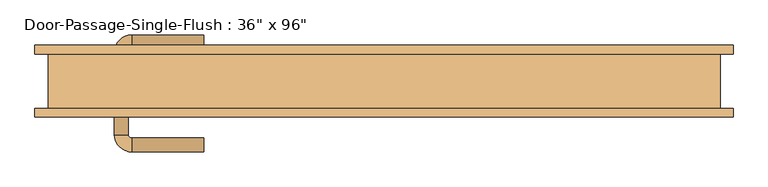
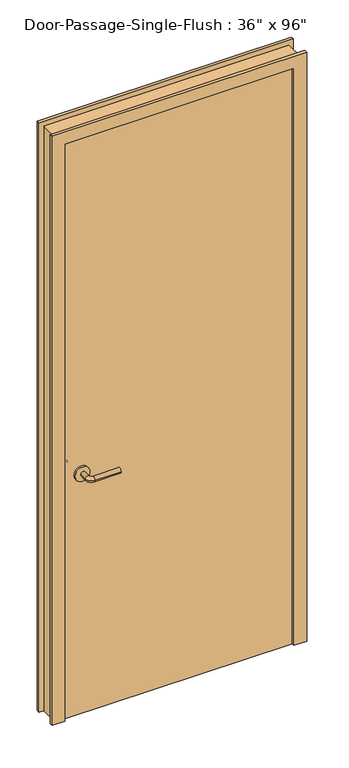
"""IFC4 building model written with IfcOpenShell, lengths in millimetres: door geometry."""

from ifc_helpers import new_model, si_unit, point, frame, frame_2d, origin, origin_with_axes, place, context, project, spatial, polyline, circle_curve, ellipse_curve, trimmed, segment, composite_curve, outline, extrude, faceted_brep, source, transform, mapped, element, save
from ifc_brep_helpers import plane_surface, cylinder_surface, revolved_surface, advanced_brep


def door_f8b587be(model_context):
    return source(origin(), model_context, "Body", "SolidModel", [
        advanced_brep(
        [(-392.190625, 6.4125, 1016.0), (-372.190625, 6.4125, 1016.0), (-392.190625, 36.4125, 1016.0), (-372.190625, 36.4125, 1016.0), (-367.190625, 41.4125, 1016.0), (-367.190625, 61.4125, 1016.0), (-262.190625, 61.4125, 1016.0), (-262.190625, 41.4125, 1016.0)],
        [
            (0, 1, circle_curve(frame((-382.190625, 6.4125, 1016.0), z_axis=(0.0, -1.0, 0.0), x_axis=(1.0, 0.0, 0.0)), 10.0)),
            (1, 0, circle_curve(frame((-382.190625, 6.4125, 1016.0), z_axis=(0.0, -1.0, 0.0), x_axis=(1.0, 0.0, 0.0)), 10.0)),
            (0, 2),
            (2, 3, circle_curve(frame((-382.190625, 36.4125, 1016.0), z_axis=(0.0, -1.0, 0.0), x_axis=(1.0, 0.0, 0.0)), 10.0)),
            (3, 1),
            (3, 2, circle_curve(frame((-382.190625, 36.4125, 1016.0), z_axis=(0.0, -1.0, 0.0), x_axis=(1.0, 0.0, 0.0)), 10.0)),
            (4, 3, circle_curve(frame((-367.190625, 36.4125, 1016.0), z_axis=(0.0, 0.0, 1.0), x_axis=(-1.0, 0.0, 0.0)), 5.0)),
            (2, 5, circle_curve(frame((-367.190625, 36.4125, 1016.0), z_axis=(0.0, 0.0, -1.0), x_axis=(-1.0, 0.0, 0.0)), 25.0)),
            (5, 4, circle_curve(frame((-367.190625, 51.4125, 1016.0), z_axis=(-1.0, 0.0, 0.0), x_axis=(0.0, -1.0, 0.0)), 10.0)),
            (4, 5, circle_curve(frame((-367.190625, 51.4125, 1016.0), z_axis=(-1.0, 0.0, 0.0), x_axis=(0.0, -1.0, 0.0)), 10.0)),
            (6, 7, circle_curve(frame((-262.190625, 51.4125, 1016.0), z_axis=(1.0, 0.0, 0.0), x_axis=(0.0, -1.0, 0.0)), 10.0)),
            (7, 6, circle_curve(frame((-262.190625, 51.4125, 1016.0), z_axis=(1.0, 0.0, 0.0), x_axis=(0.0, -1.0, 0.0)), 10.0)),
            (5, 6),
            (7, 4),
        ],
        [
            plane_surface(frame((-382.190625, 6.4125, 1016.0), z_axis=(0.0, -1.0, 0.0), x_axis=(0.0, 0.0, 1.0))),
            cylinder_surface(frame((-382.190625, 6.4125, 1016.0), z_axis=(0.0, -1.0, 0.0), x_axis=(1.0, 0.0, 0.0)), 10.0),
            revolved_surface(trimmed(ellipse_curve(frame((-382.190625, 36.4125, 1016.0), z_axis=(0.0, -1.0, 0.0), x_axis=(1.0, 0.0, 0.0)), 10.0, 10.0), [point((-392.190625, 36.4125, 1016.0))], [point((-372.190625, 36.4125, 1016.0))], True, "CARTESIAN"), (-367.190625, 36.4125, 1016.0), (0.0, 0.0, -1.0)),
            revolved_surface(trimmed(ellipse_curve(frame((-382.190625, 36.4125, 1016.0), z_axis=(0.0, -1.0, 0.0), x_axis=(1.0, 0.0, 0.0)), 10.0, 10.0), [point((-372.190625, 36.4125, 1016.0))], [point((-392.190625, 36.4125, 1016.0))], True, "CARTESIAN"), (-367.190625, 36.4125, 1016.0), (0.0, 0.0, -1.0)),
            plane_surface(frame((-262.190625, 51.4125, 1016.0), z_axis=(1.0, 0.0, 0.0), x_axis=(0.0, 0.0, 1.0))),
            cylinder_surface(frame((-367.190625, 51.4125, 1016.0), z_axis=(-1.0, 0.0, 0.0), x_axis=(0.0, -1.0, 0.0)), 10.0),
        ],
        [
            (0, [[1, 2]]),
            (1, [[-1, 3, 4, 5]]),
            (1, [[-2, -5, 6, -3]]),
            (2, [[7, -4, 8, 9]]),
            (3, [[-8, -6, -7, 10]]),
            (4, [[11, 12]]),
            (5, [[-9, 13, -12, 14]]),
            (5, [[-10, -14, -11, -13]]),
        ],
    ),
        extrude(outline(composite_curve([segment(trimmed(circle_curve(frame_2d((1016.0, -384.690625)), 30.0), [point((1016.0, -414.690625))], [point((1016.0, -354.690625))], False, "CARTESIAN"), True, "CONTINUOUS"), segment(trimmed(circle_curve(frame_2d((1016.0, -384.690625)), 30.0), [point((1016.0, -354.690625))], [point((1016.0, -414.690625))], False, "CARTESIAN"), True, "CONTINUOUS")], self_intersect=False)), frame((0.0, -1.5875, 0.0), z_axis=(0.0, 1.0, 0.0), x_axis=(0.0, 0.0, 1.0)), (0.0, 0.0, 1.0), 8.0),
        advanced_brep(
        [(-392.190625, -54.0375, 1016.0), (-372.190625, -54.0375, 1016.0), (-372.190625, -84.0375, 1016.0), (-392.190625, -84.0375, 1016.0), (-367.190625, -89.0375, 1016.0), (-367.190625, -109.0375, 1016.0), (-262.190625, -109.0375, 1016.0), (-262.190625, -89.0375, 1016.0)],
        [
            (0, 1, circle_curve(frame((-382.190625, -54.0375, 1016.0), z_axis=(0.0, 1.0, 0.0), x_axis=(1.0, 0.0, 0.0)), 10.0)),
            (1, 0, circle_curve(frame((-382.190625, -54.0375, 1016.0), z_axis=(0.0, 1.0, 0.0), x_axis=(1.0, 0.0, 0.0)), 10.0)),
            (1, 2),
            (2, 3, circle_curve(frame((-382.190625, -84.0375, 1016.0), z_axis=(0.0, 1.0, 0.0), x_axis=(1.0, 0.0, 0.0)), 10.0)),
            (3, 0),
            (3, 2, circle_curve(frame((-382.190625, -84.0375, 1016.0), z_axis=(0.0, 1.0, 0.0), x_axis=(1.0, 0.0, 0.0)), 10.0)),
            (4, 5, circle_curve(frame((-367.190625, -99.0375, 1016.0), z_axis=(-1.0, 0.0, 0.0), x_axis=(0.0, 1.0, 0.0)), 10.0)),
            (5, 3, circle_curve(frame((-367.190625, -84.0375, 1016.0), z_axis=(0.0, 0.0, -1.0), x_axis=(-1.0, 0.0, 0.0)), 25.0)),
            (2, 4, circle_curve(frame((-367.190625, -84.0375, 1016.0), z_axis=(0.0, 0.0, 1.0), x_axis=(-1.0, 0.0, 0.0)), 5.0)),
            (5, 4, circle_curve(frame((-367.190625, -99.0375, 1016.0), z_axis=(-1.0, 0.0, 0.0), x_axis=(0.0, 1.0, 0.0)), 10.0)),
            (6, 7, circle_curve(frame((-262.190625, -99.0375, 1016.0), z_axis=(1.0, 0.0, 0.0), x_axis=(0.0, 1.0, 0.0)), 10.0)),
            (7, 6, circle_curve(frame((-262.190625, -99.0375, 1016.0), z_axis=(1.0, 0.0, 0.0), x_axis=(0.0, 1.0, 0.0)), 10.0)),
            (4, 7),
            (6, 5),
        ],
        [
            plane_surface(frame((-382.190625, -54.0375, 1016.0), z_axis=(0.0, 1.0, 0.0), x_axis=(0.0, 0.0, 1.0))),
            cylinder_surface(frame((-382.190625, -54.0375, 1016.0), z_axis=(0.0, 1.0, 0.0), x_axis=(1.0, 0.0, 0.0)), 10.0),
            revolved_surface(trimmed(ellipse_curve(frame((-382.190625, -84.0375, 1016.0), z_axis=(0.0, -1.0, 0.0), x_axis=(1.0, 0.0, 0.0)), 10.0, 10.0), [point((-392.190625, -84.0375, 1016.0))], [point((-372.190625, -84.0375, 1016.0))], True, "CARTESIAN"), (-367.190625, -84.0375, 1016.0), (0.0, 0.0, -1.0)),
            revolved_surface(trimmed(ellipse_curve(frame((-382.190625, -84.0375, 1016.0), z_axis=(0.0, -1.0, 0.0), x_axis=(1.0, 0.0, 0.0)), 10.0, 10.0), [point((-372.190625, -84.0375, 1016.0))], [point((-392.190625, -84.0375, 1016.0))], True, "CARTESIAN"), (-367.190625, -84.0375, 1016.0), (0.0, 0.0, -1.0)),
            plane_surface(frame((-262.190625, -99.0375, 1016.0), z_axis=(1.0, 0.0, 0.0), x_axis=(0.0, 0.0, 1.0))),
            cylinder_surface(frame((-367.190625, -99.0375, 1016.0), z_axis=(-1.0, 0.0, 0.0), x_axis=(0.0, 1.0, 0.0)), 10.0),
        ],
        [
            (0, [[1, 2]]),
            (1, [[3, 4, 5, -2]]),
            (1, [[-5, 6, -3, -1]]),
            (2, [[7, 8, -4, 9]]),
            (3, [[10, -9, -6, -8]]),
            (4, [[11, 12]]),
            (5, [[13, -11, 14, -7]]),
            (5, [[-14, -12, -13, -10]]),
        ],
    ),
        extrude(outline(composite_curve([segment(trimmed(circle_curve(frame_2d((1016.0, -384.690625)), 30.0), [point((1016.0, -414.690625))], [point((1016.0, -354.690625))], False, "CARTESIAN"), True, "CONTINUOUS"), segment(trimmed(circle_curve(frame_2d((1016.0, -384.690625)), 30.0), [point((1016.0, -354.690625))], [point((1016.0, -414.690625))], False, "CARTESIAN"), True, "CONTINUOUS")], self_intersect=False)), frame((0.0, -54.0375, 0.0), z_axis=(0.0, 1.0, 0.0), x_axis=(0.0, 0.0, 1.0)), (0.0, 0.0, 1.0), 8.0),
        faceted_brep([(457.2, -58.7375, 0.0), (457.2, 3.175, 0.0), (441.325, 3.175, 0.0), (441.325, 41.275, 0.0), (457.2, 41.275, 0.0), (457.2, 46.0375, 0.0), (508.0, 46.0375, 0.0), (508.0, 33.3375, 0.0), (488.95, 33.3375, 0.0), (488.95, -46.0375, 0.0), (508.0, -46.0375, 0.0), (508.0, -58.7375, 0.0), (508.0, -58.7375, 2489.2), (-508.0, -58.7375, 2489.2), (-508.0, -58.7375, 0.0), (-457.2, -58.7375, 0.0), (-457.2, -58.7375, 2438.4), (457.2, -58.7375, 2438.4), (508.0, -46.0375, 2489.2), (488.95, -46.0375, 2470.15), (-488.95, -46.0375, 2470.15), (-488.95, -46.0375, 0.0), (-508.0, -46.0375, 0.0), (-508.0, -46.0375, 2489.2), (488.95, 33.3375, 2470.15), (508.0, 33.3375, 2489.2), (-508.0, 33.3375, 2489.2), (-508.0, 33.3375, 0.0), (-488.95, 33.3375, 0.0), (-488.95, 33.3375, 2470.15), (508.0, 46.0375, 2489.2), (457.2, 46.0375, 2438.4), (-457.2, 46.0375, 2438.4), (-457.2, 46.0375, 0.0), (-508.0, 46.0375, 0.0), (-508.0, 46.0375, 2489.2), (457.2, 41.275, 2438.4), (441.325, 41.275, 2422.525), (-441.325, 41.275, 2422.525), (-441.325, 41.275, 0.0), (-457.2, 41.275, 0.0), (-457.2, 41.275, 2438.4), (441.325, 3.175, 2422.525), (457.2, 3.175, 2438.4), (-457.2, 3.175, 2438.4), (-457.2, 3.175, 0.0), (-441.325, 3.175, 0.0), (-441.325, 3.175, 2422.525)], [[[0, 1, 2, 3, 4, 5, 6, 7, 8, 9, 10, 11]], [[11, 12, 13, 14, 15, 16, 17, 0]], [[10, 18, 12, 11]], [[9, 19, 20, 21, 22, 23, 18, 10]], [[8, 24, 19, 9]], [[7, 25, 26, 27, 28, 29, 24, 8]], [[6, 30, 25, 7]], [[5, 31, 32, 33, 34, 35, 30, 6]], [[4, 36, 31, 5]], [[3, 37, 38, 39, 40, 41, 36, 4]], [[2, 42, 37, 3]], [[1, 43, 44, 45, 46, 47, 42, 2]], [[0, 17, 43, 1]], [[18, 23, 13, 12]], [[24, 29, 20, 19]], [[30, 35, 26, 25]], [[36, 41, 32, 31]], [[42, 47, 38, 37]], [[17, 16, 44, 43]], [[15, 14, 22, 21, 28, 27, 34, 33, 40, 39, 46, 45]], [[23, 22, 14, 13]], [[29, 28, 21, 20]], [[35, 34, 27, 26]], [[41, 40, 33, 32]], [[47, 46, 39, 38]], [[16, 15, 45, 44]]]),
        extrude(outline(polyline([(457.2, -1.5875), (457.2, -46.0375), (-457.2, -46.0375), (-457.2, -1.5875), (457.2, -1.5875)])), origin_with_axes(), (0.0, 0.0, 1.0), 2438.4),
    ])


if __name__ == "__main__":
    model = new_model("IFC4")
    model_context = context("Model", 3, world=origin())
    ifc_project = project(units=[si_unit("LENGTHUNIT", "METRE", prefix="MILLI")], contexts=[model_context])
    site = spatial("IfcSite", under=ifc_project)
    building = spatial("IfcBuilding", under=site)
    placement = place(None, origin())
    door_shape = door_f8b587be(model_context)
    element("IfcDoor", 1, ObjectType="Door-Passage-Single-Flush : 36\" x 96\"", at=placement, inside=building, context=model_context, shape_type="MappedRepresentation", body=[
        mapped(door_shape, transform((0.0, 0.0, 0.0), x_axis=(1.0, 0.0, 0.0), y_axis=(0.0, 1.0, 0.0), z_axis=(0.0, 0.0, 1.0))),
    ])
    save(model, "model.ifc")
